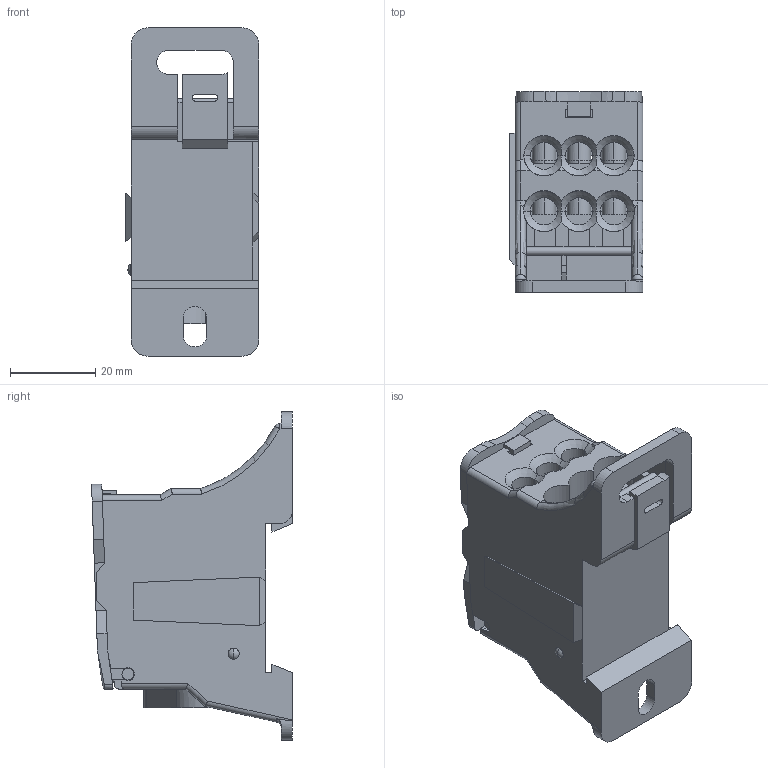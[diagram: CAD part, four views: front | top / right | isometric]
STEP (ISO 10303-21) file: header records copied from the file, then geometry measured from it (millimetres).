
FILE_DESCRIPTION (( 'STEP AP203' ), '1' );
FILE_NAME ('BDA125.STEP', '2018-08-10T19:58:44', ( '' ), ( '' ), 'SwSTEP 2.0', 'SolidWorks 2012', '' );
FILE_SCHEMA (( 'CONFIG_CONTROL_DESIGN' ));
Length unit declared in the file: millimetre
Products named in the file (1): BDA125
Bounding box: 31.4 x 47.09 x 77 mm (x, y, z)
Volume: 41166.2 mm3; surface area: 22640.9 mm2
Topology: 1 solids, 1 shells, 426 faces, 1183 edges, 766 vertices
Faces by surface type: plane 242, cylinder 150, cone 14, bspline 10, torus 6, sphere 4
Entity records: 14751 total; most frequent: CARTESIAN_POINT 3857, ORIENTED_EDGE 2366, DIRECTION 2139, EDGE_CURVE 1183, VERTEX_POINT 766, VECTOR 751, LINE 751, AXIS2_PLACEMENT_3D 694
